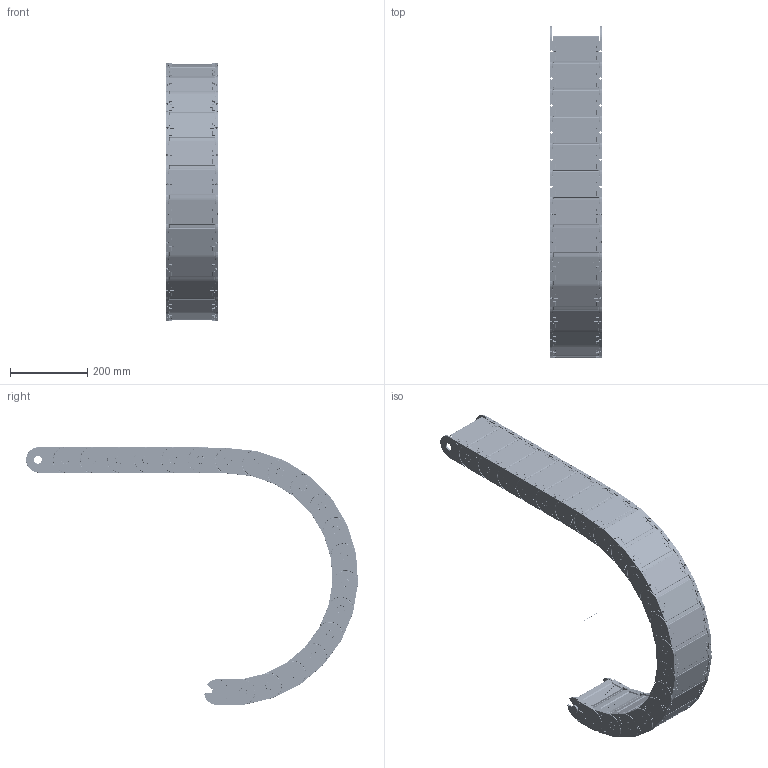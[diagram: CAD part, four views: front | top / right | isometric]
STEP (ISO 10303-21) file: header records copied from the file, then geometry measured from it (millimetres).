
FILE_DESCRIPTION((''),'2;1');
FILE_NAME('C:\Uebbing\PARAMETERKETTEN\KOLIBRI\Kol_65_135_5\Kol_65_135_5_R300.stp','2012-03-06T09:10:08',('Uebbing'),(''),'Autodesk Inventor 10','Autodesk Inventor 10','');
FILE_SCHEMA(('AUTOMOTIVE_DESIGN { 1 0 10303 214 1 1 1 1 }'));
Length unit declared in the file: millimetre
Products named in the file (5): KOLIBRI 65_135_5_PARAMETRISCH; Achse; Kol_65_135_5; Kol_65_135_5 Lasche; Kol_65_135_5 Klappdeckel
Assembly tree (24 placements, depth 3):
  KOLIBRI 65_135_5_PARAMETRISCH
    Achse
    Kol_65_135_5  x21
      Kol_65_135_5 Lasche
      Kol_65_135_5 Klappdeckel
Bounding box: 135 x 857.04 x 665 mm (x, y, z)
Volume: 2478452.5 mm3; surface area: 1698728.2 mm2
Topology: 43 solids, 43 shells, 13443 faces, 36628 edges, 23418 vertices
Faces by surface type: plane 5399, bspline 5103, cylinder 2374, torus 441, cone 84, sphere 42
Full cylindrical faces by diameter (mm): 1 x1, 2.514 x21, 4 x63, 4.414 x21, 6 x21, 20 x42
Entity records: 21940 total; most frequent: CARTESIAN_POINT 6117, ORIENTED_EDGE 3422, DIRECTION 2961, EDGE_CURVE 1711, VECTOR 1239, LINE 1239, VERTEX_POINT 1106, AXIS2_PLACEMENT_3D 861
